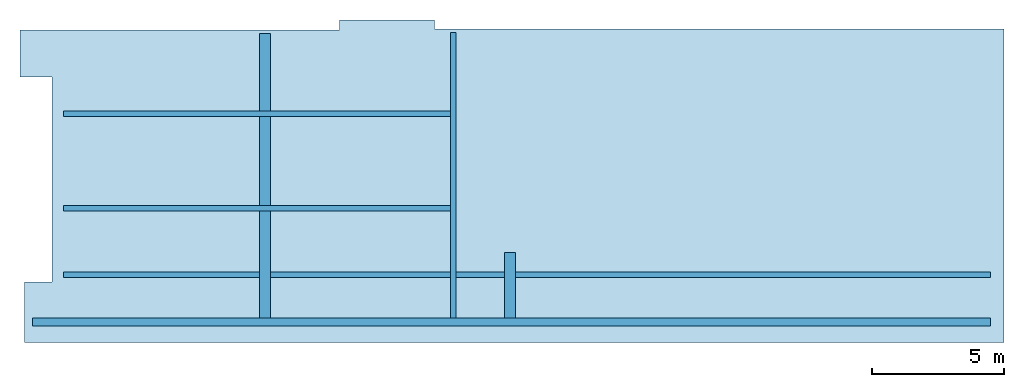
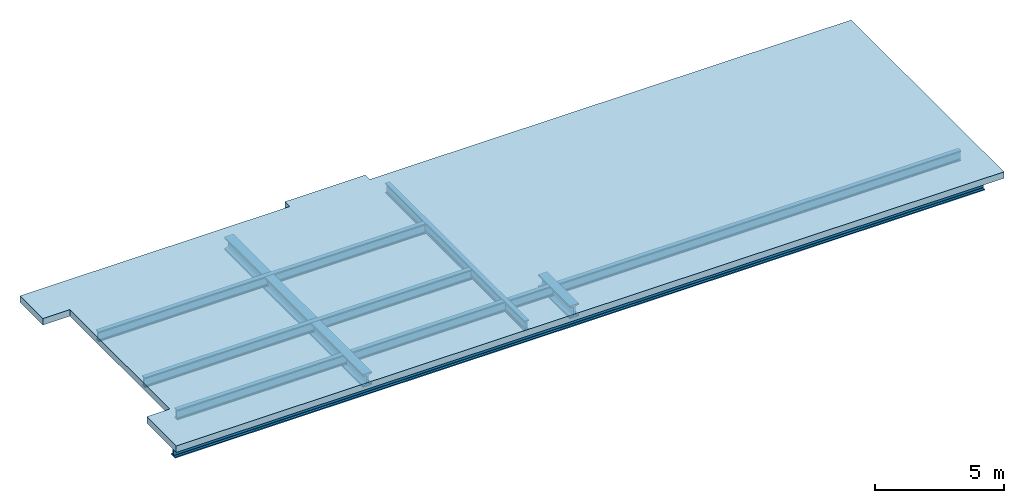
# One storey: 7 beams, 1 slab.
"""IFC4 building model written with IfcOpenShell, lengths in feet."""

from ifc_helpers import new_model, entity, si_unit, converted_unit, derived_unit, direction, frame, frame_2d, origin, place, context, subcontext, project, spatial, polyline, circle_curve, parameter, trimmed, segment, composite_curve, i_section, outline, extrude, source, transform, mapped, material, layer, layer_set, layer_usage, material_profile, profile_set, profile_usage, type_object, type_shapes, element, save


model = new_model("IFC4")

# Units and contexts
model_context = context("Model", 3, precision=0.0001, world=origin(), true_north=direction((6.12303176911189e-17, 1.0)))
body_context = subcontext(model_context, "Body", "Model", "MODEL_VIEW")
ifc_project = project(units=[converted_unit("LENGTHUNIT", "FOOT", entity("IfcRatioMeasure", 0.3048), si_unit("LENGTHUNIT", "METRE"), dimensions=[1, 0, 0, 0, 0, 0, 0]), converted_unit("AREAUNIT", "SQUARE FOOT", entity("IfcRatioMeasure", 0.09290304), si_unit("AREAUNIT", "SQUARE_METRE"), dimensions=[2, 0, 0, 0, 0, 0, 0]), converted_unit("VOLUMEUNIT", "CUBIC FOOT", entity("IfcRatioMeasure", 0.028316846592), si_unit("VOLUMEUNIT", "CUBIC_METRE"), dimensions=[3, 0, 0, 0, 0, 0, 0]), converted_unit("PLANEANGLEUNIT", "DEGREE", entity("IfcRatioMeasure", 0.0174532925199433), si_unit("PLANEANGLEUNIT", "RADIAN"), dimensions=[0, 0, 0, 0, 0, 0, 0]), si_unit("MASSUNIT", "GRAM", prefix="KILO"), derived_unit("MASSDENSITYUNIT", [(si_unit("MASSUNIT", "GRAM", prefix="KILO"), 1), (si_unit("LENGTHUNIT", "METRE"), -3)]), si_unit("TIMEUNIT", "SECOND"), si_unit("FREQUENCYUNIT", "HERTZ"), si_unit("THERMODYNAMICTEMPERATUREUNIT", "DEGREE_CELSIUS"), derived_unit("THERMALTRANSMITTANCEUNIT", [(si_unit("MASSUNIT", "GRAM", prefix="KILO"), 1), (si_unit("THERMODYNAMICTEMPERATUREUNIT", "KELVIN"), -1), (si_unit("TIMEUNIT", "SECOND"), -3)]), derived_unit("VOLUMETRICFLOWRATEUNIT", [(si_unit("LENGTHUNIT", "METRE"), 3), (si_unit("TIMEUNIT", "SECOND"), -1)]), si_unit("ELECTRICCURRENTUNIT", "AMPERE"), si_unit("ELECTRICVOLTAGEUNIT", "VOLT"), si_unit("POWERUNIT", "WATT"), si_unit("FORCEUNIT", "NEWTON"), si_unit("ILLUMINANCEUNIT", "LUX"), si_unit("LUMINOUSFLUXUNIT", "LUMEN"), si_unit("LUMINOUSINTENSITYUNIT", "CANDELA"), derived_unit("USERDEFINED", [(si_unit("MASSUNIT", "GRAM", prefix="KILO"), -1), (si_unit("LENGTHUNIT", "METRE"), -2), (si_unit("TIMEUNIT", "SECOND"), 3), (si_unit("LUMINOUSFLUXUNIT", "LUMEN"), 1)]), derived_unit("LINEARVELOCITYUNIT", [(si_unit("LENGTHUNIT", "METRE"), 1), (si_unit("TIMEUNIT", "SECOND"), -1)]), si_unit("PRESSUREUNIT", "PASCAL"), derived_unit("USERDEFINED", [(si_unit("LENGTHUNIT", "METRE"), -2), (si_unit("MASSUNIT", "GRAM", prefix="KILO"), 1), (si_unit("TIMEUNIT", "SECOND"), -2)])], contexts=[model_context])

# Site, building, storey
site_placement = place(None, origin())
site = spatial("IfcSite", under=ifc_project, at=site_placement, Name="Default", CompositionType="ELEMENT")
building_placement = place(site_placement, origin())
building = spatial("IfcBuilding", under=site, at=building_placement, CompositionType="ELEMENT")
storey_placement = place(building_placement, frame((0.0, 0.0, 181.083333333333)))
storey = spatial("IfcBuildingStorey", under=building, at=storey_placement, Name="Level 16", CompositionType="ELEMENT", Elevation=181.083333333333)

# Beams
ifc_material_1 = material(Name="Steel, 45-345", Category="Metal")
ifc_material_profile_1 = material_profile(ifc_material_1, i_section(OverallWidth=0.666666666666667, OverallDepth=1.58333333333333, WebThickness=0.25, FlangeThickness=0.166666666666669, FilletRadius=0.0833333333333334, at=frame_2d((1.83186799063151e-15, 1.66533453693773e-16), x_axis=(0.0, 1.0))), Name="T Form Beam")
ifc_profile_set_1 = profile_set([ifc_material_profile_1], Name="T Form Beam")
ifc_profile_usage_1 = profile_usage(ifc_profile_set_1, cardinal=8)
beam_type_1 = type_object("IfcBeamType", Name="T Form Beam", PredefinedType="BEAM", material=ifc_profile_set_1)
shared_shape_1 = source(origin(), body_context, "Body", "SweptSolid", [
    extrude(i_section(OverallWidth=0.666666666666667, OverallDepth=1.58333333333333, WebThickness=0.25, FlangeThickness=0.166666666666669, FilletRadius=0.0833333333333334, at=frame_2d((1.83186799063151e-15, 1.66533453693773e-16), x_axis=(0.0, 1.0))), frame((-23.8437500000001, 0.0, 0.0), z_axis=(1.0, 0.0, 0.0), x_axis=(0.0, 0.0, -1.0)), (0.0, 0.0, 1.0), 47.9791666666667),
])
type_shapes(beam_type_1, [shared_shape_1])
beam_1_placement = place(storey_placement, frame((-30.8815811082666, 5.25231625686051, -1.79166666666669)))
element("IfcBeam", 1, at=beam_1_placement, inside=storey, type_object=beam_type_1, material=ifc_profile_usage_1, Name="UB-Universal Beam:T Form Beam", ObjectType="UB-Universal Beam:T Form Beam", PredefinedType="NOTDEFINED", context=body_context, shape_type="MappedRepresentation", body=[
    mapped(shared_shape_1, transform((0.0, 0.0, 0.0), scale=1.0)),
])
ifc_profile_usage_2 = profile_usage(ifc_profile_set_1, cardinal=8)
beam_type_2 = type_object("IfcBeamType", Name="T Form Beam", PredefinedType="BEAM", material=ifc_profile_set_1)
shared_shape_2 = source(origin(), body_context, "Body", "SweptSolid", [
    extrude(i_section(OverallWidth=0.666666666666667, OverallDepth=1.58333333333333, WebThickness=0.25, FlangeThickness=0.166666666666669, FilletRadius=0.0833333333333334, at=frame_2d((1.83186799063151e-15, 1.66533453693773e-16), x_axis=(0.0, 1.0))), frame((-23.5104166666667, 0.0, 0.0), z_axis=(1.0, 0.0, 0.0), x_axis=(0.0, 0.0, -1.0)), (0.0, 0.0, 1.0), 47.9791666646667),
])
type_shapes(beam_type_2, [shared_shape_2])
beam_2_placement = place(storey_placement, frame((-31.2149144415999, -6.47685040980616, -1.79166666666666)))
element("IfcBeam", 2, at=beam_2_placement, inside=storey, type_object=beam_type_2, material=ifc_profile_usage_2, Name="UB-Universal Beam:T Form Beam", ObjectType="UB-Universal Beam:T Form Beam", PredefinedType="NOTDEFINED", context=body_context, shape_type="MappedRepresentation", body=[
    mapped(shared_shape_2, transform((0.0, 0.0, 0.0), scale=1.0)),
])
ifc_profile_usage_3 = profile_usage(ifc_profile_set_1, cardinal=8)
beam_type_3 = type_object("IfcBeamType", Name="T Form Beam", PredefinedType="BEAM", material=ifc_profile_set_1)
shared_shape_3 = source(origin(), body_context, "Body", "SweptSolid", [
    extrude(i_section(OverallWidth=0.666666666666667, OverallDepth=1.58333333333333, WebThickness=0.25, FlangeThickness=0.166666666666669, FilletRadius=0.0833333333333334, at=frame_2d((1.83186799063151e-15, 1.66533453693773e-16), x_axis=(0.0, 1.0))), frame((-57.4795594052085, 0.0, 0.0), z_axis=(1.0, 0.0, 0.0), x_axis=(0.0, 0.0, -1.0)), (0.0, 0.0, 1.0), 114.959118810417),
])
type_shapes(beam_type_3, [shared_shape_3])
beam_3_placement = place(storey_placement, frame((2.75422829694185, -14.7268504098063, -1.79166666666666)))
element("IfcBeam", 3, at=beam_3_placement, inside=storey, type_object=beam_type_3, material=ifc_profile_usage_3, Name="UB-Universal Beam:T Form Beam", ObjectType="UB-Universal Beam:T Form Beam", PredefinedType="NOTDEFINED", context=body_context, shape_type="MappedRepresentation", body=[
    mapped(shared_shape_3, transform((0.0, 0.0, 0.0), scale=1.0)),
])
ifc_material_profile_2 = material_profile(ifc_material_1, outline(composite_curve([segment(polyline([(-0.666666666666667, -0.749999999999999), (-0.666666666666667, -1.0)]), True, "CONTINUOUS"), segment(polyline([(-0.666666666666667, -1.0), (0.666666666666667, -1.0)]), True, "CONTINUOUS"), segment(polyline([(0.666666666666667, -1.0), (0.666666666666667, -0.749999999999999)]), True, "CONTINUOUS"), segment(polyline([(0.666666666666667, -0.749999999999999), (0.458333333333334, -0.749999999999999)]), True, "CONTINUOUS"), segment(trimmed(circle_curve(frame_2d((0.458333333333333, -0.416666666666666), x_axis=(1.0, 0.0)), 0.333333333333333), [parameter(180.0)], [parameter(270.0)], True, "PARAMETER"), False, "CONTINUOUS"), segment(polyline([(0.125, -0.416666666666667), (0.125, 0.416666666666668)]), True, "CONTINUOUS"), segment(trimmed(circle_curve(frame_2d((0.458333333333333, 0.416666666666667), x_axis=(1.0, 0.0)), 0.333333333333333), [parameter(90.0000000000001)], [parameter(180.0)], True, "PARAMETER"), False, "CONTINUOUS"), segment(polyline([(0.458333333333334, 0.75), (0.666666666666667, 0.75)]), True, "CONTINUOUS"), segment(polyline([(0.666666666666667, 0.75), (0.666666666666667, 1.0)]), True, "CONTINUOUS"), segment(polyline([(0.666666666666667, 1.0), (-0.666666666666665, 1.0)]), True, "CONTINUOUS"), segment(polyline([(-0.666666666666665, 1.0), (-0.666666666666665, 0.75)]), True, "CONTINUOUS"), segment(polyline([(-0.666666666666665, 0.75), (-0.458333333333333, 0.75)]), True, "CONTINUOUS"), segment(trimmed(circle_curve(frame_2d((-0.458333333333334, 0.416666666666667), x_axis=(1.0, 0.0)), 0.333333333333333), [parameter(360.0)], [parameter(89.9999999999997)], True, "PARAMETER"), False, "CONTINUOUS"), segment(polyline([(-0.125, 0.416666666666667), (-0.125, -0.416666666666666)]), True, "CONTINUOUS"), segment(trimmed(circle_curve(frame_2d((-0.458333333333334, -0.416666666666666), x_axis=(1.0, 0.0)), 0.333333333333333), [parameter(270.0)], [parameter(0.0)], True, "PARAMETER"), False, "CONTINUOUS"), segment(polyline([(-0.458333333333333, -0.749999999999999), (-0.666666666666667, -0.749999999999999)]), True, "CONTINUOUS")], self_intersect=False)), Name="T Form Beam 2")
ifc_profile_set_2 = profile_set([ifc_material_profile_2], Name="T Form Beam 2")
ifc_profile_usage_4 = profile_usage(ifc_profile_set_2, cardinal=8)
beam_type_4 = type_object("IfcBeamType", Name="T Form Beam 2", PredefinedType="BEAM", material=ifc_profile_set_2)
shared_shape_4 = source(origin(), body_context, "Body", "SweptSolid", [
    extrude(outline(composite_curve([segment(polyline([(-0.666666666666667, -0.749999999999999), (-0.666666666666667, -1.0)]), True, "CONTINUOUS"), segment(polyline([(-0.666666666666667, -1.0), (0.666666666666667, -1.0)]), True, "CONTINUOUS"), segment(polyline([(0.666666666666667, -1.0), (0.666666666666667, -0.749999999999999)]), True, "CONTINUOUS"), segment(polyline([(0.666666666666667, -0.749999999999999), (0.458333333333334, -0.749999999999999)]), True, "CONTINUOUS"), segment(trimmed(circle_curve(frame_2d((0.458333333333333, -0.416666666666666), x_axis=(1.0, 0.0)), 0.333333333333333), [parameter(180.0)], [parameter(270.0)], True, "PARAMETER"), False, "CONTINUOUS"), segment(polyline([(0.125, -0.416666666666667), (0.125, 0.416666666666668)]), True, "CONTINUOUS"), segment(trimmed(circle_curve(frame_2d((0.458333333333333, 0.416666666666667), x_axis=(1.0, 0.0)), 0.333333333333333), [parameter(90.0000000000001)], [parameter(180.0)], True, "PARAMETER"), False, "CONTINUOUS"), segment(polyline([(0.458333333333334, 0.75), (0.666666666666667, 0.75)]), True, "CONTINUOUS"), segment(polyline([(0.666666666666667, 0.75), (0.666666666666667, 1.0)]), True, "CONTINUOUS"), segment(polyline([(0.666666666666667, 1.0), (-0.666666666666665, 1.0)]), True, "CONTINUOUS"), segment(polyline([(-0.666666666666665, 1.0), (-0.666666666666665, 0.75)]), True, "CONTINUOUS"), segment(polyline([(-0.666666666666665, 0.75), (-0.458333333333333, 0.75)]), True, "CONTINUOUS"), segment(trimmed(circle_curve(frame_2d((-0.458333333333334, 0.416666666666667), x_axis=(1.0, 0.0)), 0.333333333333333), [parameter(360.0)], [parameter(89.9999999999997)], True, "PARAMETER"), False, "CONTINUOUS"), segment(polyline([(-0.125, 0.416666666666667), (-0.125, -0.416666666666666)]), True, "CONTINUOUS"), segment(trimmed(circle_curve(frame_2d((-0.458333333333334, -0.416666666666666), x_axis=(1.0, 0.0)), 0.333333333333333), [parameter(270.0)], [parameter(0.0)], True, "PARAMETER"), False, "CONTINUOUS"), segment(polyline([(-0.458333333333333, -0.749999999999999), (-0.666666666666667, -0.749999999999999)]), True, "CONTINUOUS")], self_intersect=False)), frame((-17.9838442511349, 0.0, 0.0), z_axis=(-1.0, 0.0, 0.0), x_axis=(0.0, -1.0, 0.0)), (0.0, 0.0, -1.0), 35.2617915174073),
])
type_shapes(beam_type_4, [shared_shape_4])
beam_4_placement = place(storey_placement, frame((-29.7044977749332, -2.0763394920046, -2.0), z_axis=(0.0, 0.0, 1.0), x_axis=(0.0, 1.0, 0.0)))
element("IfcBeam", 4, at=beam_4_placement, inside=storey, type_object=beam_type_4, material=ifc_profile_usage_4, Name="UB-Universal Beam:T Form Beam 2", ObjectType="UB-Universal Beam:T Form Beam 2", PredefinedType="NOTDEFINED", context=body_context, shape_type="MappedRepresentation", body=[
    mapped(shared_shape_4, transform((0.0, 0.0, 0.0), scale=1.0)),
])
ifc_profile_usage_5 = profile_usage(ifc_profile_set_2, cardinal=8)
beam_type_5 = type_object("IfcBeamType", Name="T Form Beam 2", PredefinedType="BEAM", material=ifc_profile_set_2)
shared_shape_5 = source(origin(), body_context, "Body", "SweptSolid", [
    extrude(outline(composite_curve([segment(polyline([(-0.666666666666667, -0.749999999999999), (-0.666666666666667, -1.0)]), True, "CONTINUOUS"), segment(polyline([(-0.666666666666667, -1.0), (0.666666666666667, -1.0)]), True, "CONTINUOUS"), segment(polyline([(0.666666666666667, -1.0), (0.666666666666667, -0.749999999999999)]), True, "CONTINUOUS"), segment(polyline([(0.666666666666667, -0.749999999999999), (0.458333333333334, -0.749999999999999)]), True, "CONTINUOUS"), segment(trimmed(circle_curve(frame_2d((0.458333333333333, -0.416666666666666), x_axis=(1.0, 0.0)), 0.333333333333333), [parameter(180.0)], [parameter(270.0)], True, "PARAMETER"), False, "CONTINUOUS"), segment(polyline([(0.125, -0.416666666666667), (0.125, 0.416666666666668)]), True, "CONTINUOUS"), segment(trimmed(circle_curve(frame_2d((0.458333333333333, 0.416666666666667), x_axis=(1.0, 0.0)), 0.333333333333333), [parameter(90.0000000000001)], [parameter(180.0)], True, "PARAMETER"), False, "CONTINUOUS"), segment(polyline([(0.458333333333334, 0.75), (0.666666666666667, 0.75)]), True, "CONTINUOUS"), segment(polyline([(0.666666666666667, 0.75), (0.666666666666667, 1.0)]), True, "CONTINUOUS"), segment(polyline([(0.666666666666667, 1.0), (-0.666666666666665, 1.0)]), True, "CONTINUOUS"), segment(polyline([(-0.666666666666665, 1.0), (-0.666666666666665, 0.75)]), True, "CONTINUOUS"), segment(polyline([(-0.666666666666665, 0.75), (-0.458333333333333, 0.75)]), True, "CONTINUOUS"), segment(trimmed(circle_curve(frame_2d((-0.458333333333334, 0.416666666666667), x_axis=(1.0, 0.0)), 0.333333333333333), [parameter(360.0)], [parameter(89.9999999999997)], True, "PARAMETER"), False, "CONTINUOUS"), segment(polyline([(-0.125, 0.416666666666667), (-0.125, -0.416666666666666)]), True, "CONTINUOUS"), segment(trimmed(circle_curve(frame_2d((-0.458333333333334, -0.416666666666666), x_axis=(1.0, 0.0)), 0.333333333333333), [parameter(270.0)], [parameter(0.0)], True, "PARAMETER"), False, "CONTINUOUS"), segment(polyline([(-0.458333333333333, -0.749999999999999), (-0.666666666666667, -0.749999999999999)]), True, "CONTINUOUS")], self_intersect=False)), frame((-4.45778604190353, 0.0, 0.0), z_axis=(-1.0, 0.0, 0.0), x_axis=(0.0, -1.0, 0.0)), (0.0, 0.0, -1.0), 8.11741339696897),
])
type_shapes(beam_type_5, [shared_shape_5])
beam_5_placement = place(storey_placement, frame((0.649668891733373, -15.6023977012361, -2.0), z_axis=(0.0, 0.0, 1.0), x_axis=(0.0, 1.0, 0.0)))
element("IfcBeam", 5, at=beam_5_placement, inside=storey, type_object=beam_type_5, material=ifc_profile_usage_5, Name="UB-Universal Beam:T Form Beam 2", ObjectType="UB-Universal Beam:T Form Beam 2", PredefinedType="NOTDEFINED", context=body_context, shape_type="MappedRepresentation", body=[
    mapped(shared_shape_5, transform((0.0, 0.0, 0.0), scale=1.0)),
])
ifc_profile_usage_6 = profile_usage(ifc_profile_set_1, cardinal=8)
beam_type_6 = type_object("IfcBeamType", Name="T Form Beam", PredefinedType="BEAM", material=ifc_profile_set_1)
shared_shape_6 = source(origin(), body_context, "Body", "SweptSolid", [
    extrude(outline(composite_curve([segment(polyline([(-0.333333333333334, -0.624999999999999), (-0.333333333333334, -0.791666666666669)]), True, "CONTINUOUS"), segment(polyline([(-0.333333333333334, -0.791666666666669), (0.333333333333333, -0.791666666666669)]), True, "CONTINUOUS"), segment(polyline([(0.333333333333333, -0.791666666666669), (0.333333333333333, -0.624999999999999)]), True, "CONTINUOUS"), segment(polyline([(0.333333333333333, -0.624999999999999), (0.208333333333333, -0.624999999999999)]), True, "CONTINUOUS"), segment(trimmed(circle_curve(frame_2d((0.208333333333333, -0.541666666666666), x_axis=(1.0, 0.0)), 0.0833333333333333), [parameter(180.0)], [parameter(270.0)], True, "PARAMETER"), False, "CONTINUOUS"), segment(polyline([(0.125, -0.541666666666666), (0.125, 0.541666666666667)]), True, "CONTINUOUS"), segment(trimmed(circle_curve(frame_2d((0.208333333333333, 0.541666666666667), x_axis=(1.0, 0.0)), 0.0833333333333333), [parameter(90.0000000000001)], [parameter(180.0)], True, "PARAMETER"), False, "CONTINUOUS"), segment(polyline([(0.208333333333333, 0.625), (0.333333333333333, 0.625)]), True, "CONTINUOUS"), segment(polyline([(0.333333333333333, 0.625), (0.333333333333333, 0.791666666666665)]), True, "CONTINUOUS"), segment(polyline([(0.333333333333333, 0.791666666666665), (-0.333333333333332, 0.791666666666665)]), True, "CONTINUOUS"), segment(polyline([(-0.333333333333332, 0.791666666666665), (-0.333333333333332, 0.625)]), True, "CONTINUOUS"), segment(polyline([(-0.333333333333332, 0.625), (-0.208333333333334, 0.625)]), True, "CONTINUOUS"), segment(trimmed(circle_curve(frame_2d((-0.208333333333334, 0.541666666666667), x_axis=(1.0, 0.0)), 0.0833333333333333), [parameter(360.0)], [parameter(89.9999999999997)], True, "PARAMETER"), False, "CONTINUOUS"), segment(polyline([(-0.125, 0.541666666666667), (-0.125, -0.541666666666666)]), True, "CONTINUOUS"), segment(trimmed(circle_curve(frame_2d((-0.208333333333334, -0.541666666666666), x_axis=(1.0, 0.0)), 0.0833333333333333), [parameter(270.0)], [parameter(0.0)], True, "PARAMETER"), False, "CONTINUOUS"), segment(polyline([(-0.208333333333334, -0.624999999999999), (-0.333333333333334, -0.624999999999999)]), True, "CONTINUOUS")], self_intersect=False)), frame((-16.6693326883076, 0.0, 0.0), z_axis=(-1.0, 0.0, 0.0), x_axis=(0.0, -1.0, 0.0)), (0.0, 0.0, -1.0), 35.3775840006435),
])
type_shapes(beam_type_6, [shared_shape_6])
beam_6_placement = place(storey_placement, frame((-6.37116444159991, -3.39085105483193, -1.79166666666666), z_axis=(0.0, 0.0, 1.0), x_axis=(0.0, 1.0, 0.0)))
element("IfcBeam", 6, at=beam_6_placement, inside=storey, type_object=beam_type_6, material=ifc_profile_usage_6, Name="UB-Universal Beam:T Form Beam", ObjectType="UB-Universal Beam:T Form Beam", PredefinedType="NOTDEFINED", context=body_context, shape_type="MappedRepresentation", body=[
    mapped(shared_shape_6, transform((0.0, 0.0, 0.0), scale=1.0)),
])
ifc_material_profile_3 = material_profile(ifc_material_1, i_section(OverallWidth=1.0, OverallDepth=2.5, WebThickness=0.25, FlangeThickness=0.16666666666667, FilletRadius=0.0833333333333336, at=frame_2d((1.99840144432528e-15, 1.66533453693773e-16), x_axis=(0.0, 1.0))), Name="T Form Beam 3")
ifc_profile_set_3 = profile_set([ifc_material_profile_3], Name="T Form Beam 3")
ifc_profile_usage_7 = profile_usage(ifc_profile_set_3, cardinal=8)
beam_type_7 = type_object("IfcBeamType", Name="T Form Beam 3", PredefinedType="BEAM", material=ifc_profile_set_3)
shared_shape_7 = source(origin(), body_context, "Body", "SweptSolid", [
    extrude(i_section(OverallWidth=1.0, OverallDepth=2.5, WebThickness=0.25, FlangeThickness=0.16666666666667, FilletRadius=0.0833333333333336, at=frame_2d((1.99840144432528e-15, 1.66533453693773e-16), x_axis=(0.0, 1.0))), frame((-61.2798439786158, 0.0, 0.0), z_axis=(1.0, 0.0, 0.0), x_axis=(0.0, 0.0, -1.0)), (0.0, 0.0, 1.0), 118.759403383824),
])
type_shapes(beam_type_7, [shared_shape_7])
beam_7_placement = place(storey_placement, frame((2.75422829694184, -20.5601837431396, -2.25)))
element("IfcBeam", 7, at=beam_7_placement, inside=storey, type_object=beam_type_7, material=ifc_profile_usage_7, Name="UB-Universal Beam:T Form Beam 3", ObjectType="UB-Universal Beam:T Form Beam 3", PredefinedType="NOTDEFINED", context=body_context, shape_type="MappedRepresentation", body=[
    mapped(shared_shape_7, transform((0.0, 0.0, 0.0), scale=1.0)),
])

# Slab
ifc_material_2 = material(Name="Default Floor", Category="Miscellaneous")
ifc_layer_1 = layer(ifc_material_2, 1.0, Name="Default Floor", Category="Miscellaneous")
ifc_layer_2 = layer(ifc_material_2, 0.0, Name="Default Floor", Category="Miscellaneous")
ifc_layer_set = layer_set([ifc_layer_1, ifc_layer_2], Name="Floor:Generic Struc- 12\"")
ifc_layer_usage = layer_usage(ifc_layer_set, "AXIS3", "POSITIVE", 0.0)
slab_type = type_object("IfcSlabType", Name="Floor:Generic Struc- 12\"", PredefinedType="FLOOR", material=ifc_layer_set)
slab_placement = place(storey_placement, origin())
element("IfcSlab", 8, at=slab_placement, inside=storey, type_object=slab_type, material=ifc_layer_usage, Name="Floor:Generic Struc- 12\"", ObjectType="Floor:Generic Struc- 12\"", PredefinedType="FLOOR", context=body_context, shape_type="SweptSolid", body=[
    extrude(outline(polyline([(6.58045219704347, -36.2372904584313), (12.4033688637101, -36.2372904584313), (12.4033688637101, 3.34604287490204), (13.635186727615, 3.34604287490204), (13.635186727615, 15.1265912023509), (12.5191613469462, 15.1265912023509), (12.5191613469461, 85.7305039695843), (-26.3140079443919, 85.7305039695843), (-26.3140079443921, -35.6747327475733), (-18.8241611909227, -35.6747327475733), (-18.8241611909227, -32.2911148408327), (6.58045219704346, -32.2911148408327), (6.58045219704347, -36.2372904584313)])), frame((-23.8508829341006, 3.21490557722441, 0.0), z_axis=(0.0, 0.0, -1.0), x_axis=(0.0, 1.0, 0.0)), (0.0, 0.0, 1.0), 1.0),
])

save(model, "model.ifc")
